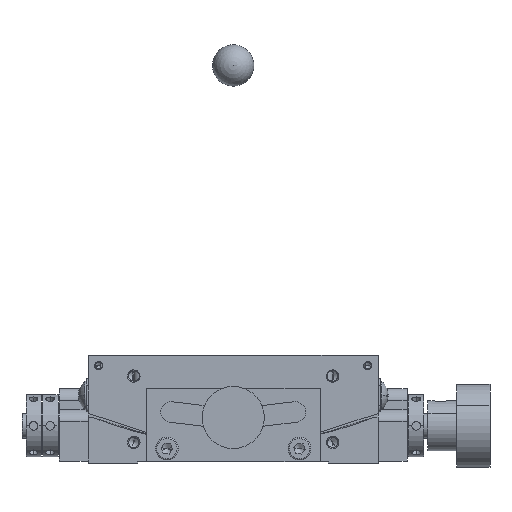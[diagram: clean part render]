
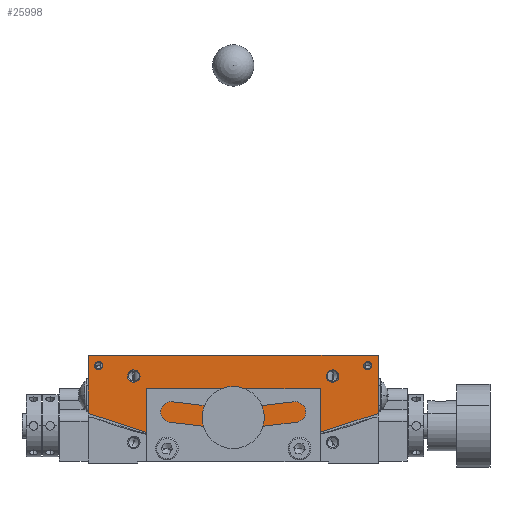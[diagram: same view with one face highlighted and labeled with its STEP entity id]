
A CAD part, front view. The second image highlights one B-rep face of the part: STEP entity #25998.
In plain terms, the highlighted planar face has unit normal (0, -1, 0) as drawn and (-1, 0, 0) by its records, which use the part's own axes.
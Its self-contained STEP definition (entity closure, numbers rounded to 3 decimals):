
#5392 = EDGE_CURVE ( 'NONE', #19057, #19056, #46986, .T. ) ;
#5394 = EDGE_CURVE ( 'NONE', #19101, #19100, #46993, .T. ) ;
#5396 = EDGE_CURVE ( 'NONE', #19318, #19317, #48966, .T. ) ;
#5398 = EDGE_CURVE ( 'NONE', #19321, #19318, #48998, .T. ) ;
#5400 = EDGE_CURVE ( 'NONE', #19323, #19321, #49020, .T. ) ;
#5402 = EDGE_CURVE ( 'NONE', #19317, #19323, #47021, .T. ) ;
#5404 = EDGE_CURVE ( 'NONE', #19096, #19095, #47028, .T. ) ;
#5406 = EDGE_CURVE ( 'NONE', #19038, #19037, #47033, .T. ) ;
#5408 = EDGE_CURVE ( 'NONE', #18742, #18741, #47045, .T. ) ;
#9557 = ORIENTED_EDGE ( 'NONE', *, *, #5392, .F. ) ;
#9558 = ORIENTED_EDGE ( 'NONE', *, *, #24477, .F. ) ;
#9559 = ORIENTED_EDGE ( 'NONE', *, *, #5394, .F. ) ;
#9560 = ORIENTED_EDGE ( 'NONE', *, *, #24577, .F. ) ;
#9561 = ORIENTED_EDGE ( 'NONE', *, *, #5396, .F. ) ;
#9562 = ORIENTED_EDGE ( 'NONE', *, *, #5398, .F. ) ;
#9563 = ORIENTED_EDGE ( 'NONE', *, *, #5400, .F. ) ;
#9564 = ORIENTED_EDGE ( 'NONE', *, *, #5402, .F. ) ;
#9565 = ORIENTED_EDGE ( 'NONE', *, *, #5404, .F. ) ;
#9566 = ORIENTED_EDGE ( 'NONE', *, *, #24567, .F. ) ;
#9567 = ORIENTED_EDGE ( 'NONE', *, *, #5406, .F. ) ;
#9568 = ORIENTED_EDGE ( 'NONE', *, *, #24434, .F. ) ;
#9569 = ORIENTED_EDGE ( 'NONE', *, *, #23855, .F. ) ;
#9570 = ORIENTED_EDGE ( 'NONE', *, *, #5408, .F. ) ;
#14696 = EDGE_LOOP ( 'NONE', ( #9565, #9566 ) ) ;
#14704 = EDGE_LOOP ( 'NONE', ( #9559, #9560 ) ) ;
#14710 = EDGE_LOOP ( 'NONE', ( #9569, #9570 ) ) ;
#14713 = EDGE_LOOP ( 'NONE', ( #9557, #9558 ) ) ;
#14714 = EDGE_LOOP ( 'NONE', ( #9561, #9562, #9563, #9564 ) ) ;
#14715 = EDGE_LOOP ( 'NONE', ( #9567, #9568 ) ) ;
#18741 = VERTEX_POINT ( 'NONE', #34606 ) ;
#18742 = VERTEX_POINT ( 'NONE', #34608 ) ;
#19037 = VERTEX_POINT ( 'NONE', #35106 ) ;
#19038 = VERTEX_POINT ( 'NONE', #35108 ) ;
#19056 = VERTEX_POINT ( 'NONE', #35144 ) ;
#19057 = VERTEX_POINT ( 'NONE', #35146 ) ;
#19095 = VERTEX_POINT ( 'NONE', #35222 ) ;
#19096 = VERTEX_POINT ( 'NONE', #35224 ) ;
#19100 = VERTEX_POINT ( 'NONE', #35232 ) ;
#19101 = VERTEX_POINT ( 'NONE', #35234 ) ;
#19317 = VERTEX_POINT ( 'NONE', #35666 ) ;
#19318 = VERTEX_POINT ( 'NONE', #35668 ) ;
#19321 = VERTEX_POINT ( 'NONE', #35674 ) ;
#19323 = VERTEX_POINT ( 'NONE', #35678 ) ;
#23855 = EDGE_CURVE ( 'NONE', #18741, #18742, #37152, .T. ) ;
#24434 = EDGE_CURVE ( 'NONE', #19037, #19038, #41833, .T. ) ;
#24477 = EDGE_CURVE ( 'NONE', #19056, #19057, #41856, .T. ) ;
#24567 = EDGE_CURVE ( 'NONE', #19095, #19096, #41908, .T. ) ;
#24577 = EDGE_CURVE ( 'NONE', #19100, #19101, #41914, .T. ) ;
#25998 = ADVANCED_FACE ( 'NONE', ( #49151, #49140, #49156, #49160, #49149, #49153 ), #49163, .F. ) ;
#34606 = CARTESIAN_POINT ( 'NONE',  ( -35., -5., -15. ) ) ;
#34608 = CARTESIAN_POINT ( 'NONE',  ( -35., 5., -15. ) ) ;
#35106 = CARTESIAN_POINT ( 'NONE',  ( -35., -31.5, -2.5 ) ) ;
#35108 = CARTESIAN_POINT ( 'NONE',  ( -35., -33.5, -2.5 ) ) ;
#35144 = CARTESIAN_POINT ( 'NONE',  ( -35., 33.5, -2.5 ) ) ;
#35146 = CARTESIAN_POINT ( 'NONE',  ( -35., 31.5, -2.5 ) ) ;
#35222 = CARTESIAN_POINT ( 'NONE',  ( -35., -24.532, -6.402 ) ) ;
#35224 = CARTESIAN_POINT ( 'NONE',  ( -35., -23.468, -3.598 ) ) ;
#35232 = CARTESIAN_POINT ( 'NONE',  ( -35., 24.532, -6.402 ) ) ;
#35234 = CARTESIAN_POINT ( 'NONE',  ( -35., 23.468, -3.598 ) ) ;
#35666 = CARTESIAN_POINT ( 'NONE',  ( -35., -35., -14. ) ) ;
#35668 = CARTESIAN_POINT ( 'NONE',  ( -35., -35., 0. ) ) ;
#35674 = CARTESIAN_POINT ( 'NONE',  ( -35., 35., 0. ) ) ;
#35678 = CARTESIAN_POINT ( 'NONE',  ( -35., 35., -14. ) ) ;
#37152 = CIRCLE ( 'NONE', #37154, 5. ) ;
#37154 = AXIS2_PLACEMENT_3D ( 'NONE', #40965, #40966, #40967 ) ;
#40965 = CARTESIAN_POINT ( 'NONE',  ( -35., 0., -15. ) ) ;
#40966 = DIRECTION ( 'NONE',  ( -1., 0., 0. ) ) ;
#40967 = DIRECTION ( 'NONE',  ( 0., -1., 0. ) ) ;
#41833 = CIRCLE ( 'NONE', #41840, 1. ) ;
#41840 = AXIS2_PLACEMENT_3D ( 'NONE', #43069, #43070, #43071 ) ;
#41856 = CIRCLE ( 'NONE', #41862, 1. ) ;
#41862 = AXIS2_PLACEMENT_3D ( 'NONE', #43143, #43144, #43145 ) ;
#41908 = CIRCLE ( 'NONE', #41916, 1.5 ) ;
#41914 = CIRCLE ( 'NONE', #41922, 1.5 ) ;
#41916 = AXIS2_PLACEMENT_3D ( 'NONE', #43283, #43284, #43285 ) ;
#41922 = AXIS2_PLACEMENT_3D ( 'NONE', #43303, #43304, #43305 ) ;
#42837 = AXIS2_PLACEMENT_3D ( 'NONE', #49158, #49165, #49167 ) ;
#43069 = CARTESIAN_POINT ( 'NONE',  ( -35., -32.5, -2.5 ) ) ;
#43070 = DIRECTION ( 'NONE',  ( -1., 0., 0. ) ) ;
#43071 = DIRECTION ( 'NONE',  ( 0., -1., 0. ) ) ;
#43143 = CARTESIAN_POINT ( 'NONE',  ( -35., 32.5, -2.5 ) ) ;
#43144 = DIRECTION ( 'NONE',  ( -1., 0., 0. ) ) ;
#43145 = DIRECTION ( 'NONE',  ( 0., -1., 0. ) ) ;
#43283 = CARTESIAN_POINT ( 'NONE',  ( -35., -24., -5. ) ) ;
#43284 = DIRECTION ( 'NONE',  ( -1., 0., 0. ) ) ;
#43285 = DIRECTION ( 'NONE',  ( 0., 0.355, 0.935 ) ) ;
#43303 = CARTESIAN_POINT ( 'NONE',  ( -35., 24., -5. ) ) ;
#43304 = DIRECTION ( 'NONE',  ( -1., 0., 0. ) ) ;
#43305 = DIRECTION ( 'NONE',  ( 0., -0.355, 0.935 ) ) ;
#46986 = CIRCLE ( 'NONE', #46991, 1. ) ;
#46991 = AXIS2_PLACEMENT_3D ( 'NONE', #48969, #48970, #48972 ) ;
#46993 = CIRCLE ( 'NONE', #47001, 1.5 ) ;
#47001 = AXIS2_PLACEMENT_3D ( 'NONE', #48984, #48986, #48988 ) ;
#47003 = VECTOR ( 'NONE', #48999, 1000. ) ;
#47009 = VECTOR ( 'NONE', #49013, 1000. ) ;
#47018 = VECTOR ( 'NONE', #49025, 1000. ) ;
#47021 = CIRCLE ( 'NONE', #47026, 91. ) ;
#47026 = AXIS2_PLACEMENT_3D ( 'NONE', #49036, #49038, #49040 ) ;
#47028 = CIRCLE ( 'NONE', #47035, 1.5 ) ;
#47033 = CIRCLE ( 'NONE', #47043, 1. ) ;
#47035 = AXIS2_PLACEMENT_3D ( 'NONE', #49051, #49053, #49055 ) ;
#47043 = AXIS2_PLACEMENT_3D ( 'NONE', #49067, #49069, #49070 ) ;
#47045 = CIRCLE ( 'NONE', #47049, 5. ) ;
#47049 = AXIS2_PLACEMENT_3D ( 'NONE', #49081, #49083, #49085 ) ;
#48966 = LINE ( 'NONE', #48981, #47003 ) ;
#48969 = CARTESIAN_POINT ( 'NONE',  ( -35., 32.5, -2.5 ) ) ;
#48970 = DIRECTION ( 'NONE',  ( -1., 0., 0. ) ) ;
#48972 = DIRECTION ( 'NONE',  ( 0., -1., 0. ) ) ;
#48981 = CARTESIAN_POINT ( 'NONE',  ( -35., -35., 0. ) ) ;
#48984 = CARTESIAN_POINT ( 'NONE',  ( -35., 24., -5. ) ) ;
#48986 = DIRECTION ( 'NONE',  ( -1., 0., 0. ) ) ;
#48988 = DIRECTION ( 'NONE',  ( 0., -0.355, 0.935 ) ) ;
#48989 = CARTESIAN_POINT ( 'NONE',  ( -35., 35., 0. ) ) ;
#48998 = LINE ( 'NONE', #48989, #47009 ) ;
#48999 = DIRECTION ( 'NONE',  ( 0., 0., -1. ) ) ;
#49013 = DIRECTION ( 'NONE',  ( 0., -1., 0. ) ) ;
#49020 = LINE ( 'NONE', #49023, #47018 ) ;
#49023 = CARTESIAN_POINT ( 'NONE',  ( -35., 35., -14. ) ) ;
#49025 = DIRECTION ( 'NONE',  ( 0., 0., 1. ) ) ;
#49036 = CARTESIAN_POINT ( 'NONE',  ( -35., 0., 70. ) ) ;
#49038 = DIRECTION ( 'NONE',  ( 1., 0., 0. ) ) ;
#49040 = DIRECTION ( 'NONE',  ( 0., -1., 0. ) ) ;
#49051 = CARTESIAN_POINT ( 'NONE',  ( -35., -24., -5. ) ) ;
#49053 = DIRECTION ( 'NONE',  ( -1., 0., 0. ) ) ;
#49055 = DIRECTION ( 'NONE',  ( 0., 0.355, 0.935 ) ) ;
#49067 = CARTESIAN_POINT ( 'NONE',  ( -35., -32.5, -2.5 ) ) ;
#49069 = DIRECTION ( 'NONE',  ( -1., 0., 0. ) ) ;
#49070 = DIRECTION ( 'NONE',  ( 0., -1., 0. ) ) ;
#49081 = CARTESIAN_POINT ( 'NONE',  ( -35., 0., -15. ) ) ;
#49083 = DIRECTION ( 'NONE',  ( -1., 0., 0. ) ) ;
#49085 = DIRECTION ( 'NONE',  ( 0., -1., 0. ) ) ;
#49140 = FACE_BOUND ( 'NONE', #14704, .T. ) ;
#49149 = FACE_BOUND ( 'NONE', #14715, .T. ) ;
#49151 = FACE_BOUND ( 'NONE', #14713, .T. ) ;
#49153 = FACE_BOUND ( 'NONE', #14710, .T. ) ;
#49156 = FACE_OUTER_BOUND ( 'NONE', #14714, .T. ) ;
#49158 = CARTESIAN_POINT ( 'NONE',  ( -35., 0., 70. ) ) ;
#49160 = FACE_BOUND ( 'NONE', #14696, .T. ) ;
#49163 = PLANE ( 'NONE',  #42837 ) ;
#49165 = DIRECTION ( 'NONE',  ( 1., 0., 0. ) ) ;
#49167 = DIRECTION ( 'NONE',  ( 0., -1., 0. ) ) ;
